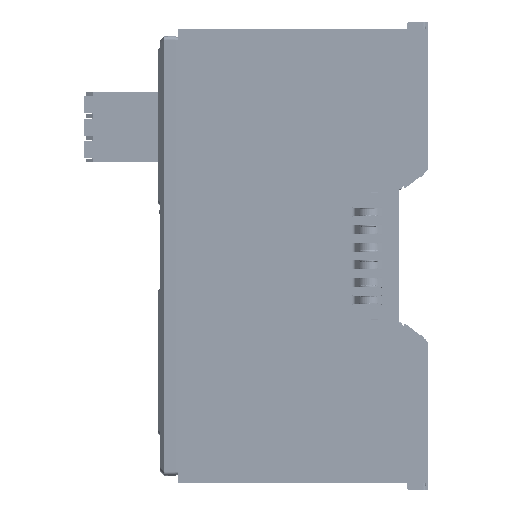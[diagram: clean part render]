
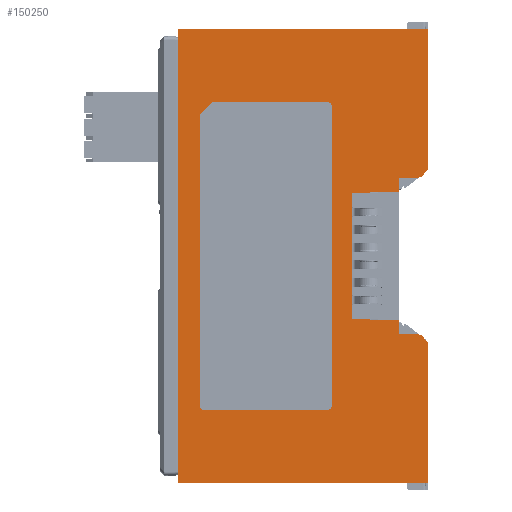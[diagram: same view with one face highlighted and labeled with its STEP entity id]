
A CAD part, left-side view. The second image highlights one B-rep face of the part: STEP entity #150250.
In plain terms, the highlighted planar face has unit normal (-1, 0, 0).
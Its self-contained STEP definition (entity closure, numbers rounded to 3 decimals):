
#39=DIRECTION('',(0.,1.,0.));
#40=VECTOR('',#39,57.);
#41=CARTESIAN_POINT('',(-21.5,-28.5,51.5));
#42=LINE('',#41,#40);
#69=DIRECTION('',(0.,0.,-1.));
#70=VECTOR('',#69,103.);
#71=CARTESIAN_POINT('',(-21.5,28.5,51.5));
#72=LINE('',#71,#70);
#1321=CARTESIAN_POINT('',(-21.5,-28.2,-19.82));
#1322=DIRECTION('',(1.,0.,0.));
#1323=DIRECTION('',(0.,-0.725,0.688));
#1324=AXIS2_PLACEMENT_3D('',#1321,#1322,#1323);
#1326=DIRECTION('',(0.,0.,-1.));
#1327=VECTOR('',#1326,31.68);
#1328=CARTESIAN_POINT('',(-21.5,-28.5,-19.82));
#1329=LINE('',#1328,#1327);
#1330=DIRECTION('',(0.,1.,0.));
#1331=VECTOR('',#1330,57.);
#1332=CARTESIAN_POINT('',(-21.5,-28.5,-51.5));
#1333=LINE('',#1332,#1331);
#1334=DIRECTION('',(0.,0.,-1.));
#1335=VECTOR('',#1334,31.68);
#1336=CARTESIAN_POINT('',(-21.5,-28.5,51.5));
#1337=LINE('',#1336,#1335);
#1338=CARTESIAN_POINT('',(-21.5,-28.2,19.82));
#1339=DIRECTION('',(1.,0.,0.));
#1340=DIRECTION('',(0.,-1.,0.));
#1341=AXIS2_PLACEMENT_3D('',#1338,#1339,#1340);
#1343=DIRECTION('',(0.,0.688,-0.725));
#1344=VECTOR('',#1343,2.301);
#1345=CARTESIAN_POINT('',(-21.5,-28.418,19.614));
#1346=LINE('',#1345,#1344);
#1347=CARTESIAN_POINT('',(-21.5,-26.616,18.151));
#1348=DIRECTION('',(1.,0.,0.));
#1349=DIRECTION('',(0.,-0.725,-0.688));
#1350=AXIS2_PLACEMENT_3D('',#1347,#1348,#1349);
#1352=DIRECTION('',(0.,1.,-0.026));
#1353=VECTOR('',#1352,4.826);
#1354=CARTESIAN_POINT('',(-21.5,-26.624,17.851));
#1355=LINE('',#1354,#1353);
#1356=DIRECTION('',(0.,1.,-0.026));
#1357=VECTOR('',#1356,10.704);
#1358=CARTESIAN_POINT('',(-21.5,-21.8,14.612));
#1359=LINE('',#1358,#1357);
#1360=DIRECTION('',(0.,0.,-1.));
#1361=VECTOR('',#1360,28.663);
#1362=CARTESIAN_POINT('',(-21.5,-11.1,14.331));
#1363=LINE('',#1362,#1361);
#1364=DIRECTION('',(0.,-1.,-0.026));
#1365=VECTOR('',#1364,10.704);
#1366=CARTESIAN_POINT('',(-21.5,-11.1,-14.331));
#1367=LINE('',#1366,#1365);
#1368=DIRECTION('',(0.,-1.,-0.026));
#1369=VECTOR('',#1368,4.826);
#1370=CARTESIAN_POINT('',(-21.5,-21.8,-17.725));
#1371=LINE('',#1370,#1369);
#1372=CARTESIAN_POINT('',(-21.5,-26.616,-18.151));
#1373=DIRECTION('',(1.,0.,0.));
#1374=DIRECTION('',(0.,-0.026,1.));
#1375=AXIS2_PLACEMENT_3D('',#1372,#1373,#1374);
#1377=DIRECTION('',(0.,-0.688,-0.725));
#1378=VECTOR('',#1377,2.301);
#1379=CARTESIAN_POINT('',(-21.5,-26.834,-17.945));
#1380=LINE('',#1379,#1378);
#1381=CARTESIAN_POINT('',(-21.5,-5.5,-34.));
#1382=DIRECTION('',(-1.,0.,0.));
#1383=DIRECTION('',(0.,0.,-1.));
#1384=AXIS2_PLACEMENT_3D('',#1381,#1382,#1383);
#1386=CARTESIAN_POINT('',(-21.5,-5.5,34.));
#1387=DIRECTION('',(-1.,0.,0.));
#1388=DIRECTION('',(0.,-1.,0.));
#1389=AXIS2_PLACEMENT_3D('',#1386,#1387,#1388);
#1391=DIRECTION('',(0.,0.707,-0.707));
#1392=VECTOR('',#1391,4.243);
#1393=CARTESIAN_POINT('',(-21.5,20.5,35.));
#1394=LINE('',#1393,#1392);
#1395=CARTESIAN_POINT('',(-21.5,22.5,-34.));
#1396=DIRECTION('',(-1.,0.,0.));
#1397=DIRECTION('',(0.,1.,0.));
#1398=AXIS2_PLACEMENT_3D('',#1395,#1396,#1397);
#76113=DIRECTION('',(0.,0.,1.));
#76114=VECTOR('',#76113,3.113);
#76115=CARTESIAN_POINT('',(-21.5,-21.8,-17.725));
#76116=LINE('',#76115,#76114);
#83251=DIRECTION('',(0.,0.,1.));
#83252=VECTOR('',#83251,3.113);
#83253=CARTESIAN_POINT('',(-21.5,-21.8,14.612));
#83254=LINE('',#83253,#83252);
#116817=DIRECTION('',(0.,1.,0.));
#116818=VECTOR('',#116817,28.);
#116819=CARTESIAN_POINT('',(-21.5,-5.5,-35.));
#116820=LINE('',#116819,#116818);
#116864=DIRECTION('',(0.,0.,1.));
#116865=VECTOR('',#116864,66.);
#116866=CARTESIAN_POINT('',(-21.5,23.5,-34.));
#116867=LINE('',#116866,#116865);
#116876=DIRECTION('',(0.,-1.,0.));
#116877=VECTOR('',#116876,26.);
#116878=CARTESIAN_POINT('',(-21.5,20.5,35.));
#116879=LINE('',#116878,#116877);
#116888=DIRECTION('',(0.,0.,-1.));
#116889=VECTOR('',#116888,68.);
#116890=CARTESIAN_POINT('',(-21.5,-6.5,34.));
#116891=LINE('',#116890,#116889);
#116972=CARTESIAN_POINT('',(-21.5,-28.5,19.82));
#116974=VERTEX_POINT('',#116972);
#116976=CARTESIAN_POINT('',(-21.5,-28.5,51.5));
#116977=VERTEX_POINT('',#116976);
#116982=CARTESIAN_POINT('',(-21.5,-28.418,19.614));
#116983=VERTEX_POINT('',#116982);
#116994=CARTESIAN_POINT('',(-21.5,28.5,51.5));
#116995=VERTEX_POINT('',#116994);
#117004=CARTESIAN_POINT('',(-21.5,28.5,-51.5));
#117005=VERTEX_POINT('',#117004);
#117368=CARTESIAN_POINT('',(-21.5,-28.418,-19.614));
#117369=CARTESIAN_POINT('',(-21.5,-28.5,-19.82));
#117370=VERTEX_POINT('',#117368);
#117371=VERTEX_POINT('',#117369);
#117372=CARTESIAN_POINT('',(-21.5,-28.5,-51.5));
#117373=VERTEX_POINT('',#117372);
#117374=CARTESIAN_POINT('',(-21.5,-26.834,17.945));
#117375=VERTEX_POINT('',#117374);
#117376=CARTESIAN_POINT('',(-21.5,-26.624,17.851));
#117377=VERTEX_POINT('',#117376);
#117378=CARTESIAN_POINT('',(-21.5,-21.8,17.725));
#117379=VERTEX_POINT('',#117378);
#117380=CARTESIAN_POINT('',(-21.5,-21.8,14.612));
#117381=VERTEX_POINT('',#117380);
#117382=CARTESIAN_POINT('',(-21.5,-11.1,14.331));
#117383=VERTEX_POINT('',#117382);
#117384=CARTESIAN_POINT('',(-21.5,-11.1,-14.331));
#117385=VERTEX_POINT('',#117384);
#117386=CARTESIAN_POINT('',(-21.5,-21.8,-14.612));
#117387=VERTEX_POINT('',#117386);
#117388=CARTESIAN_POINT('',(-21.5,-21.8,-17.725));
#117389=VERTEX_POINT('',#117388);
#117390=CARTESIAN_POINT('',(-21.5,-26.624,-17.851));
#117391=VERTEX_POINT('',#117390);
#117392=CARTESIAN_POINT('',(-21.5,-26.834,-17.945));
#117393=VERTEX_POINT('',#117392);
#117394=CARTESIAN_POINT('',(-21.5,-5.5,-35.));
#117395=CARTESIAN_POINT('',(-21.5,22.5,-35.));
#117396=VERTEX_POINT('',#117394);
#117397=VERTEX_POINT('',#117395);
#117398=CARTESIAN_POINT('',(-21.5,-6.5,-34.));
#117399=VERTEX_POINT('',#117398);
#117400=CARTESIAN_POINT('',(-21.5,-6.5,34.));
#117401=VERTEX_POINT('',#117400);
#117402=CARTESIAN_POINT('',(-21.5,-5.5,35.));
#117403=VERTEX_POINT('',#117402);
#117404=CARTESIAN_POINT('',(-21.5,20.5,35.));
#117405=VERTEX_POINT('',#117404);
#117406=CARTESIAN_POINT('',(-21.5,23.5,32.));
#117407=VERTEX_POINT('',#117406);
#117408=CARTESIAN_POINT('',(-21.5,23.5,-34.));
#117409=VERTEX_POINT('',#117408);
#150194=CARTESIAN_POINT('',(-21.5,-28.5,-50.));
#150195=DIRECTION('',(-1.,0.,0.));
#150196=DIRECTION('',(0.,0.,1.));
#150197=AXIS2_PLACEMENT_3D('',#150194,#150195,#150196);
#150198=PLANE('',#150197);
#150199=ORIENTED_EDGE('',*,*,#150184,.T.);
#150201=ORIENTED_EDGE('',*,*,#150200,.T.);
#150203=ORIENTED_EDGE('',*,*,#150202,.T.);
#150204=ORIENTED_EDGE('',*,*,#149453,.F.);
#150205=ORIENTED_EDGE('',*,*,#149433,.F.);
#150206=ORIENTED_EDGE('',*,*,#149378,.T.);
#150207=ORIENTED_EDGE('',*,*,#149396,.T.);
#150209=ORIENTED_EDGE('',*,*,#150208,.T.);
#150211=ORIENTED_EDGE('',*,*,#150210,.T.);
#150213=ORIENTED_EDGE('',*,*,#150212,.T.);
#150215=ORIENTED_EDGE('',*,*,#150214,.F.);
#150217=ORIENTED_EDGE('',*,*,#150216,.T.);
#150219=ORIENTED_EDGE('',*,*,#150218,.T.);
#150221=ORIENTED_EDGE('',*,*,#150220,.T.);
#150223=ORIENTED_EDGE('',*,*,#150222,.F.);
#150225=ORIENTED_EDGE('',*,*,#150224,.T.);
#150227=ORIENTED_EDGE('',*,*,#150226,.T.);
#150229=ORIENTED_EDGE('',*,*,#150228,.T.);
#150230=EDGE_LOOP('',(#150199,#150201,#150203,#150204,#150205,#150206,#150207,
#150209,#150211,#150213,#150215,#150217,#150219,#150221,#150223,#150225,#150227,
#150229));
#150231=FACE_OUTER_BOUND('',#150230,.F.);
#150233=ORIENTED_EDGE('',*,*,#150232,.F.);
#150235=ORIENTED_EDGE('',*,*,#150234,.T.);
#150237=ORIENTED_EDGE('',*,*,#150236,.F.);
#150239=ORIENTED_EDGE('',*,*,#150238,.T.);
#150241=ORIENTED_EDGE('',*,*,#150240,.F.);
#150243=ORIENTED_EDGE('',*,*,#150242,.T.);
#150245=ORIENTED_EDGE('',*,*,#150244,.F.);
#150247=ORIENTED_EDGE('',*,*,#150246,.T.);
#150248=EDGE_LOOP('',(#150233,#150235,#150237,#150239,#150241,#150243,#150245,
#150247));
#150249=FACE_BOUND('',#150248,.F.);
#150250=ADVANCED_FACE('',(#150231,#150249),#150198,.T.);
#1325=CIRCLE('',#1324,0.3);
#1342=CIRCLE('',#1341,0.3);
#1351=CIRCLE('',#1350,0.3);
#1376=CIRCLE('',#1375,0.3);
#1385=CIRCLE('',#1384,1.);
#1390=CIRCLE('',#1389,1.);
#1399=CIRCLE('',#1398,1.);
#149378=EDGE_CURVE('',#116977,#116974,#1337,.T.);
#149396=EDGE_CURVE('',#116974,#116983,#1342,.T.);
#149433=EDGE_CURVE('',#116977,#116995,#42,.T.);
#149453=EDGE_CURVE('',#116995,#117005,#72,.T.);
#150184=EDGE_CURVE('',#117370,#117371,#1325,.T.);
#150200=EDGE_CURVE('',#117371,#117373,#1329,.T.);
#150202=EDGE_CURVE('',#117373,#117005,#1333,.T.);
#150208=EDGE_CURVE('',#116983,#117375,#1346,.T.);
#150210=EDGE_CURVE('',#117375,#117377,#1351,.T.);
#150212=EDGE_CURVE('',#117377,#117379,#1355,.T.);
#150214=EDGE_CURVE('',#117381,#117379,#83254,.T.);
#150216=EDGE_CURVE('',#117381,#117383,#1359,.T.);
#150218=EDGE_CURVE('',#117383,#117385,#1363,.T.);
#150220=EDGE_CURVE('',#117385,#117387,#1367,.T.);
#150222=EDGE_CURVE('',#117389,#117387,#76116,.T.);
#150224=EDGE_CURVE('',#117389,#117391,#1371,.T.);
#150226=EDGE_CURVE('',#117391,#117393,#1376,.T.);
#150228=EDGE_CURVE('',#117393,#117370,#1380,.T.);
#150232=EDGE_CURVE('',#117396,#117397,#116820,.T.);
#150234=EDGE_CURVE('',#117396,#117399,#1385,.T.);
#150236=EDGE_CURVE('',#117401,#117399,#116891,.T.);
#150238=EDGE_CURVE('',#117401,#117403,#1390,.T.);
#150240=EDGE_CURVE('',#117405,#117403,#116879,.T.);
#150242=EDGE_CURVE('',#117405,#117407,#1394,.T.);
#150244=EDGE_CURVE('',#117409,#117407,#116867,.T.);
#150246=EDGE_CURVE('',#117409,#117397,#1399,.T.);
